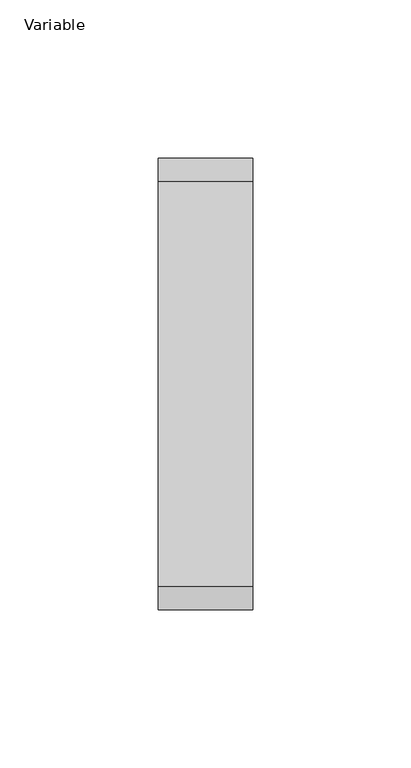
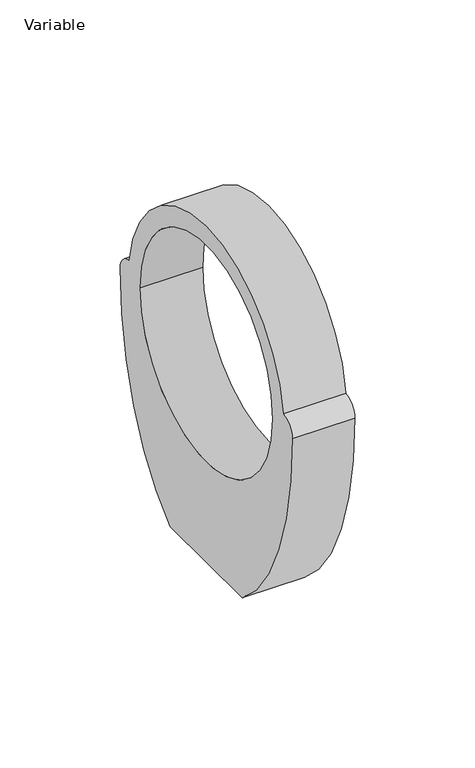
"""IFC4 building model written with IfcOpenShell, lengths in millimetres: valve geometry, AliaxisFR_Friaphon_PhonoklipBracket_FR : Variable."""

import ifcopenshell
import ifcopenshell.guid

model = None  # the IFC model being written
_history = None  # IfcOwnerHistory: only IFC2X3 demands one
_inside = {}  # id of a spatial element -> (the spatial element, [elements in it])
_under = {}  # id of a project, library or spatial element -> (it, [spatial elements below it])
_declared = {}  # id of a project -> (the project, [libraries it declares])
_typed = {}  # id of a type object -> (the type object, [elements of that type])
_made_of = {}  # id of a material, layer set ... -> (it, [elements and type objects made of it])


def new_model(schema):
    """Start an empty IFC model of exactly this schema.

    Asked for "IFC4X3", IfcOpenShell would pick the latest addendum, in which some entities
    have other attributes; the version numbers below select the first issue.
    IFC2X3 requires an IfcOwnerHistory on every rooted entity: one is made here for all.
    """
    global model, _history
    if schema == "IFC4X3":
        model = ifcopenshell.file(schema_version=(4, 3, 0, 0))
    else:
        model = ifcopenshell.file(schema=schema)
    _inside.clear()
    _under.clear()
    _declared.clear()
    _typed.clear()
    _made_of.clear()
    _history = None
    if model.schema == "IFC2X3":
        org = make("IfcOrganization", Name="unknown")
        user = make(
            "IfcPersonAndOrganization",
            ThePerson=make("IfcPerson", FamilyName="unknown"),
            TheOrganization=org,
        )
        app = make(
            "IfcApplication",
            ApplicationDeveloper=org,
            Version="unknown",
            ApplicationFullName="unknown",
            ApplicationIdentifier="unknown",
        )
        _history = make(
            "IfcOwnerHistory",
            OwningUser=user,
            OwningApplication=app,
            ChangeAction="ADDED",
            CreationDate=0,
        )
    return model


def make(cls, **values):
    """One entity of the class cls with the attributes given. An attribute that is None is left unset."""
    return model.create_entity(
        cls, **{name: value for name, value in values.items() if value is not None}
    )


def rooted(cls, **values):
    """An entity with a GlobalId (a new one), such as an element, a storey or a relation."""
    return make(cls, GlobalId=ifcopenshell.guid.new(), OwnerHistory=_history, **values)


def si_unit(unit_type, name, prefix=None):
    """IfcSIUnit, for example si_unit("LENGTHUNIT", "METRE", prefix="MILLI")."""
    return make("IfcSIUnit", UnitType=unit_type, Prefix=prefix, Name=name)


def assignment(units):
    """IfcUnitAssignment: the units of a project."""
    return None if units is None else make("IfcUnitAssignment", Units=units)


def point(xyz):
    """IfcCartesianPoint."""
    return None if xyz is None else make("IfcCartesianPoint", Coordinates=xyz)


def direction(xyz):
    """IfcDirection."""
    return None if xyz is None else make("IfcDirection", DirectionRatios=xyz)


def frame(location, z_axis=None, x_axis=None):
    """IfcAxis2Placement3D, a coordinate frame: its origin and axes. An axis left out is left unset."""
    return make(
        "IfcAxis2Placement3D",
        Location=point(location),
        Axis=direction(z_axis),
        RefDirection=direction(x_axis),
    )


def origin():
    """The frame at (0, 0, 0) with its axes left unset."""
    return frame((0.0, 0.0, 0.0))


def place(relative_to, where):
    """IfcLocalPlacement: puts the frame where relative to a parent placement (None: the world)."""
    return make(
        "IfcLocalPlacement", PlacementRelTo=relative_to, RelativePlacement=where
    )


def context(
    kind, dimensions, precision=None, world=None, true_north=None, identifier=None
):
    """IfcGeometricRepresentationContext, for example the 3D "Model" context."""
    return make(
        "IfcGeometricRepresentationContext",
        ContextIdentifier=identifier,
        ContextType=kind,
        CoordinateSpaceDimension=dimensions,
        Precision=precision,
        WorldCoordinateSystem=world,
        TrueNorth=true_north,
    )


def project(units=None, contexts=None):
    """IfcProject with its units and contexts."""
    return rooted(
        "IfcProject",
        Name="project",
        RepresentationContexts=contexts,
        UnitsInContext=assignment(units),
    )


def spatial(cls, under=None, at=None, **own):
    """A site, building, storey or space (cls), placed at a placement, below another one or the project."""
    s = rooted(cls, ObjectPlacement=at, **own)
    if under is not None:
        _under.setdefault(under.id(), (under, []))[1].append(s)
    return s


def polyline(points):
    """IfcPolyline through the points."""
    return make("IfcPolyline", Points=[point(p) for p in points])


def circle_curve(where, radius):
    """IfcCircle in the frame where."""
    return make("IfcCircle", Position=where, Radius=radius)


def ellipse_curve(where, semi_axis1, semi_axis2):
    """IfcEllipse in the frame where."""
    return make(
        "IfcEllipse", Position=where, SemiAxis1=semi_axis1, SemiAxis2=semi_axis2
    )


def trimmed(basis, trim1, trim2, sense, master):
    """IfcTrimmedCurve: the piece of a basis curve between two trims."""
    return make(
        "IfcTrimmedCurve",
        BasisCurve=basis,
        Trim1=trim1,
        Trim2=trim2,
        SenseAgreement=sense,
        MasterRepresentation=master,
    )


def shape(context_of_items, identifier, shape_type, items):
    """IfcShapeRepresentation: the items that make up one representation, for example the "Body"."""
    return make(
        "IfcShapeRepresentation",
        ContextOfItems=context_of_items,
        RepresentationIdentifier=identifier,
        RepresentationType=shape_type,
        Items=items,
    )


def source(mapping_origin, context_of_items, identifier, shape_type, items):
    """IfcRepresentationMap: a shape defined once, which mapped items show again and again."""
    return make(
        "IfcRepresentationMap",
        MappingOrigin=mapping_origin,
        MappedRepresentation=shape(context_of_items, identifier, shape_type, items),
    )


def transform(
    local_origin,
    x_axis=None,
    y_axis=None,
    z_axis=None,
    scale=None,
    scale2=None,
    scale3=None,
    uniform=True,
):
    """IfcCartesianTransformationOperator3D, or its non-uniform kind. x_axis, y_axis, z_axis: its Axis1, 2, 3."""
    if uniform:
        return make(
            "IfcCartesianTransformationOperator3D",
            Axis1=direction(x_axis),
            Axis2=direction(y_axis),
            LocalOrigin=point(local_origin),
            Scale=scale,
            Axis3=direction(z_axis),
        )
    return make(
        "IfcCartesianTransformationOperator3DnonUniform",
        Axis1=direction(x_axis),
        Axis2=direction(y_axis),
        LocalOrigin=point(local_origin),
        Scale=scale,
        Axis3=direction(z_axis),
        Scale2=scale2,
        Scale3=scale3,
    )


def mapped(mapping_source, mapping_target):
    """IfcMappedItem: shows the shape of a source again, moved by a transform."""
    return make(
        "IfcMappedItem", MappingSource=mapping_source, MappingTarget=mapping_target
    )


def made_of(thing, what):
    """Note that an element or type object is made of a material, layer set ...; save() writes the relation."""
    if what is not None:
        _made_of.setdefault(what.id(), (what, []))[1].append(thing)
    return thing


def element(
    cls,
    number,
    at=None,
    inside=None,
    cuts=None,
    type_object=None,
    material=None,
    context=None,
    identifier="Body",
    shape_type=None,
    held_by="IfcProductDefinitionShape",
    body=None,
    shapes=None,
    **own,
):
    """One element of the class cls, such as IfcWall. Its Tag is "e" and its number.

    at: its placement. inside: the storey or other place that contains it. cuts: it is an
    opening in that element (IfcRelVoidsElement). A single representation is given by context,
    identifier, shape_type and body (its items); several are given by shapes. held_by: the class
    of the entity that holds the representations. save() writes the other relations.
    """
    e = rooted(cls, Tag="e%d" % number, ObjectPlacement=at, **own)
    if body is not None:
        shapes = [shape(context, identifier, shape_type, body)]
    if shapes is not None:
        e.Representation = make(held_by, Representations=shapes)
    if inside is not None:
        _inside.setdefault(inside.id(), (inside, []))[1].append(e)
    if cuts is not None:
        rooted(
            "IfcRelVoidsElement", RelatingBuildingElement=cuts, RelatedOpeningElement=e
        )
    if type_object is not None:
        _typed.setdefault(type_object.id(), (type_object, []))[1].append(e)
    return made_of(e, material)


def aggregate(whole, parts):
    """IfcRelAggregates: a whole, such as a stair, and the parts it consists of."""
    return rooted("IfcRelAggregates", RelatingObject=whole, RelatedObjects=parts)


def save(model, path):
    """Write the relations noted so far, then the file.

    IfcRelAggregates (storeys below a building ...), IfcRelContainedInSpatialStructure (elements
    in a storey), IfcRelDefinesByType, IfcRelAssociatesMaterial and IfcRelDeclares: one each for
    every whole, place, type object, material and project.
    """
    for whole, parts in _under.values():
        aggregate(whole, parts)
    for where, things in _inside.values():
        rooted(
            "IfcRelContainedInSpatialStructure",
            RelatedElements=things,
            RelatingStructure=where,
        )
    for kind, things in _typed.values():
        rooted("IfcRelDefinesByType", RelatedObjects=things, RelatingType=kind)
    for what, things in _made_of.values():
        rooted("IfcRelAssociatesMaterial", RelatedObjects=things, RelatingMaterial=what)
    for by, libraries in _declared.values():
        rooted("IfcRelDeclares", RelatingContext=by, RelatedDefinitions=libraries)
    model.write(path)


def plane_surface(at):
    """IfcPlane: the flat surface through the origin of the frame at, square to its z axis."""
    return make("IfcPlane", Position=at)


def cylinder_surface(at, radius):
    """IfcCylindricalSurface: all points at the distance radius from the z axis of the frame at."""
    return make("IfcCylindricalSurface", Position=at, Radius=radius)


def revolved_surface(curve, axis_point, axis_direction):
    """IfcSurfaceOfRevolution: the curve turned about the line through axis_point along axis_direction."""
    return make(
        "IfcSurfaceOfRevolution",
        SweptCurve=make("IfcArbitraryOpenProfileDef", ProfileType="CURVE", Curve=curve),
        AxisPosition=make("IfcAxis1Placement", Location=point(axis_point), Axis=direction(axis_direction)),
    )


def extruded_surface(curve, direction_of_extrusion, depth):
    """IfcSurfaceOfLinearExtrusion: the curve pushed along a direction by depth."""
    return make(
        "IfcSurfaceOfLinearExtrusion",
        SweptCurve=make("IfcArbitraryOpenProfileDef", ProfileType="CURVE", Curve=curve),
        ExtrudedDirection=direction(direction_of_extrusion),
        Depth=depth,
    )


def advanced_brep(points, edges, surfaces, faces):
    """IfcAdvancedBrep: a solid bounded by faces that lie on surfaces and meet in shared edges.

    An edge is (start, end): straight between two places in points (the first is 0);
    or (start, end, curve); or (start, end, curve, False) where it runs against its curve.
    A face is (place in surfaces, loops), or (place, loops, False) where it looks against
    its surface's normal. A loop lists edges by number (the first is 1), with a minus sign
    where the edge is run from its end to its start. The first loop is the outer one.
    """
    corners = [point(p) for p in points]
    vertices = [make("IfcVertexPoint", VertexGeometry=c) for c in corners]
    made = []
    for start, end, *more in edges:
        made.append(
            make(
                "IfcEdgeCurve",
                EdgeStart=vertices[start],
                EdgeEnd=vertices[end],
                EdgeGeometry=more[0] if more else make("IfcPolyline", Points=[corners[start], corners[end]]),
                SameSense=more[1] if len(more) > 1 else True,
            )
        )
    hull = []
    for where, loops, *sense in faces:
        bounds = []
        for j, loop in enumerate(loops):
            ring = [make("IfcOrientedEdge", EdgeElement=made[abs(k) - 1], Orientation=k > 0) for k in loop]
            bounds.append(
                make(
                    "IfcFaceOuterBound" if j == 0 else "IfcFaceBound",
                    Bound=make("IfcEdgeLoop", EdgeList=ring),
                    Orientation=True,
                )
            )
        hull.append(make("IfcAdvancedFace", Bounds=bounds, FaceSurface=surfaces[where], SameSense=sense[0] if sense else True))
    return make("IfcAdvancedBrep", Outer=make("IfcClosedShell", CfsFaces=hull))


def variable_5a5fc637(model_context):
    return source(origin(), model_context, "Body", "AdvancedBrep", [
        advanced_brep(
        [(15.0, 29.786742, -106.0), (15.0, 71.5, 0.0), (15.0, 63.9743083, 8.2181432), (15.0, -63.9743083, 8.2181432), (15.0, -71.5, 0.0), (15.0, -29.786742, -106.0), (15.0, -55.0, 0.0), (15.0, 55.0, 0.0), (-15.0, -29.786742, -106.0), (-15.0, -71.5, 0.0), (-15.0, -63.9743083, 8.2181432), (-15.0, 63.9743083, 8.2181432), (-15.0, 71.5, 0.0), (-15.0, 29.786742, -106.0), (-15.0, -55.0, 0.0), (-15.0, 55.0, 0.0)],
        [
            (0, 1, ellipse_curve(frame((15.0, 0.0, 0.0), z_axis=(1.0, 0.0, 0.0), x_axis=(0.0, 0.0, 1.0)), 116.6, 71.5)),
            (1, 2, circle_curve(frame((15.0, 63.25, 0.0), z_axis=(1.0, 0.0, 0.0), x_axis=(0.0, 1.0, 0.0)), 8.25)),
            (2, 3, circle_curve(frame((15.0, 0.0, 0.0), z_axis=(1.0, 0.0, 0.0), x_axis=(0.0, 1.0, 0.0)), 64.5)),
            (3, 4, circle_curve(frame((15.0, -63.25, 0.0), z_axis=(1.0, 0.0, 0.0), x_axis=(0.0, 1.0, 0.0)), 8.25)),
            (4, 5, ellipse_curve(frame((15.0, 0.0, 0.0), z_axis=(1.0, 0.0, 0.0), x_axis=(0.0, 0.0, 1.0)), 116.6, 71.5)),
            (5, 0),
            (6, 7, circle_curve(frame((15.0, 0.0, 0.0), z_axis=(-1.0, 0.0, 0.0), x_axis=(0.0, 1.0, 0.0)), 55.0)),
            (7, 6, circle_curve(frame((15.0, 0.0, 0.0), z_axis=(-1.0, 0.0, 0.0), x_axis=(0.0, 1.0, 0.0)), 55.0)),
            (8, 9, ellipse_curve(frame((-15.0, 0.0, 0.0), z_axis=(-1.0, 0.0, 0.0), x_axis=(0.0, 0.0, 1.0)), 116.6, 71.5)),
            (9, 10, circle_curve(frame((-15.0, -63.25, 0.0), z_axis=(-1.0, 0.0, 0.0), x_axis=(0.0, 1.0, 0.0)), 8.25)),
            (10, 11, circle_curve(frame((-15.0, 0.0, 0.0), z_axis=(-1.0, 0.0, 0.0), x_axis=(0.0, 1.0, 0.0)), 64.5)),
            (11, 12, circle_curve(frame((-15.0, 63.25, 0.0), z_axis=(-1.0, 0.0, 0.0), x_axis=(0.0, 1.0, 0.0)), 8.25)),
            (12, 13, ellipse_curve(frame((-15.0, 0.0, 0.0), z_axis=(-1.0, 0.0, 0.0), x_axis=(0.0, 0.0, 1.0)), 116.6, 71.5)),
            (13, 8),
            (14, 15, circle_curve(frame((-15.0, 0.0, 0.0), z_axis=(1.0, 0.0, 0.0), x_axis=(0.0, 1.0, 0.0)), 55.0)),
            (15, 14, circle_curve(frame((-15.0, 0.0, 0.0), z_axis=(1.0, 0.0, 0.0), x_axis=(0.0, 1.0, 0.0)), 55.0)),
            (0, 13),
            (12, 1),
            (4, 9),
            (8, 5),
            (6, 14),
            (15, 7),
            (2, 11),
            (10, 3),
        ],
        [
            plane_surface(frame((15.0, 64.5, 0.0), z_axis=(1.0, 0.0, 0.0), x_axis=(0.0, 0.0, -1.0))),
            plane_surface(frame((-15.0, 64.5, 0.0), z_axis=(-1.0, 0.0, 0.0), x_axis=(0.0, 0.0, 1.0))),
            extruded_surface(trimmed(ellipse_curve(frame((-30.0, 0.0, 0.0), z_axis=(1.0, 0.0, 0.0), x_axis=(0.0, 0.0, 1.0)), 116.6, 71.5), [point((-30.0, 0.0, -116.6))], [point((-30.0, 0.0, 116.6))], True, "CARTESIAN"), (30.0, 0.0, 0.0), 30.0),
            extruded_surface(trimmed(ellipse_curve(frame((-30.0, 0.0, 0.0), z_axis=(1.0, 0.0, 0.0), x_axis=(0.0, 0.0, 1.0)), 116.6, 71.5), [point((-30.0, 0.0, 116.6))], [point((-30.0, 0.0, -116.6))], True, "CARTESIAN"), (30.0, 0.0, 0.0), 30.0),
            plane_surface(frame((15.0, 71.5, -106.0), z_axis=(0.0, 0.0, -1.0), x_axis=(-1.0, 0.0, 0.0))),
            revolved_surface(polyline([(-15.0, 55.0, 0.0), (15.0, 55.0, 0.0)]), (-15.0, 0.0, 0.0), (-1.0, 0.0, 0.0)),
            cylinder_surface(frame((0.0, 0.0, 0.0), z_axis=(1.0, 0.0, 0.0), x_axis=(0.0, 1.0, 0.0)), 64.5),
            cylinder_surface(frame((-15.0, 63.25, 0.0), z_axis=(1.0, 0.0, 0.0), x_axis=(0.0, 1.0, 0.0)), 8.25),
            cylinder_surface(frame((0.0, -63.25, 0.0), z_axis=(1.0, 0.0, 0.0), x_axis=(0.0, 1.0, 0.0)), 8.25),
        ],
        [
            (0, [[1, 2, 3, 4, 5, 6], [7, 8]]),
            (1, [[9, 10, 11, 12, 13, 14], [15, 16]]),
            (2, [[-1, 17, -13, 18]]),
            (3, [[-5, 19, -9, 20]]),
            (4, [[-6, -20, -14, -17]]),
            (5, [[-7, 21, -16, 22]]),
            (5, [[-8, -22, -15, -21]]),
            (6, [[-3, 23, -11, 24]]),
            (7, [[-2, -18, -12, -23]]),
            (8, [[-4, -24, -10, -19]]),
        ],
    ),
    ])


if __name__ == "__main__":
    model = new_model("IFC4")
    model_context = context("Model", 3, world=origin())
    ifc_project = project(units=[si_unit("LENGTHUNIT", "METRE", prefix="MILLI")], contexts=[model_context])
    site = spatial("IfcSite", under=ifc_project)
    building = spatial("IfcBuilding", under=site)
    placement = place(None, origin())
    variable_shape = variable_5a5fc637(model_context)
    element("IfcValve", 1, ObjectType="AliaxisFR_Friaphon_PhonoklipBracket_FR : Variable", at=placement, inside=building, context=model_context, shape_type="MappedRepresentation", body=[
        mapped(variable_shape, transform((0.0, 0.0, 0.0), x_axis=(1.0, 0.0, 0.0), y_axis=(0.0, 1.0, 0.0), z_axis=(0.0, 0.0, 1.0))),
    ])
    save(model, "model.ifc")
